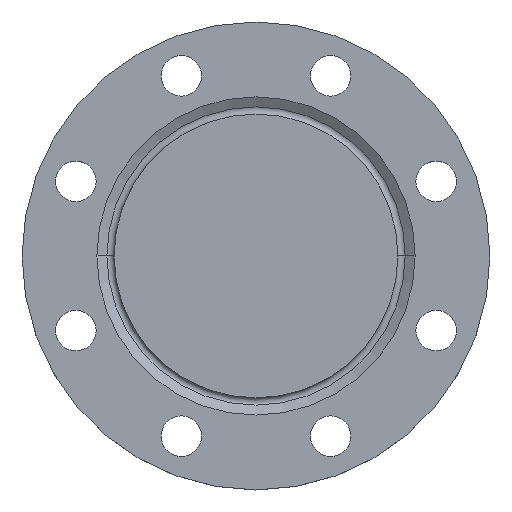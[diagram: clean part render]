
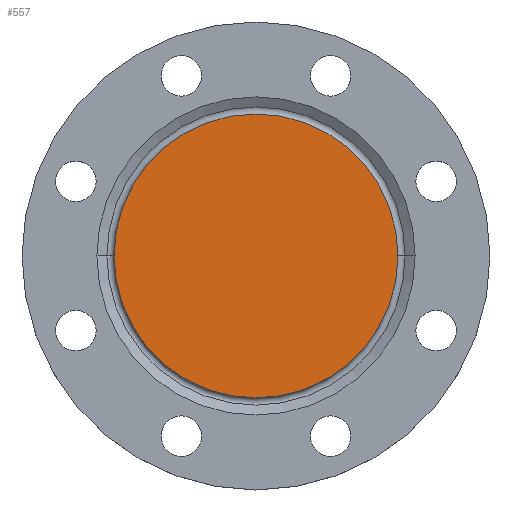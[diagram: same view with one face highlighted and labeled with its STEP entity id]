
A CAD part, top view. The second image highlights one B-rep face of the part: STEP entity #557.
In plain terms, the highlighted planar face has unit normal (0, 0, 1).
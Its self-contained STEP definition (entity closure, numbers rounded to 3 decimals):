
#76 = CARTESIAN_POINT ( 'NONE',  ( 91., 0., 0. ) ) ;
#137 = CARTESIAN_POINT ( 'NONE',  ( -91., 0., 0. ) ) ;
#384 = DIRECTION ( 'NONE',  ( -1., 0., 0. ) ) ;
#385 = DIRECTION ( 'NONE',  ( 0., 0., -1. ) ) ;
#386 = CARTESIAN_POINT ( 'NONE',  ( 0., 0., 0. ) ) ;
#397 = DIRECTION ( 'NONE',  ( 1., 0., 0. ) ) ;
#398 = DIRECTION ( 'NONE',  ( 0., 0., 1. ) ) ;
#399 = CARTESIAN_POINT ( 'NONE',  ( 0., 0., 0. ) ) ;
#402 = PLANE ( 'NONE',  #578 ) ;
#403 = FACE_OUTER_BOUND ( 'NONE', #597, .T. ) ;
#439 = DIRECTION ( 'NONE',  ( 0., 0., -1. ) ) ;
#459 = CARTESIAN_POINT ( 'NONE',  ( 0., 0., 0. ) ) ;
#461 = DIRECTION ( 'NONE',  ( -1., 0., 0. ) ) ;
#517 = CIRCLE ( 'NONE', #524, 91. ) ;
#524 = AXIS2_PLACEMENT_3D ( 'NONE', #459, #439, #461 ) ;
#532 = EDGE_CURVE ( 'NONE', #859, #980, #517, .T. ) ;
#557 = ADVANCED_FACE ( 'NONE', ( #403 ), #402, .T. ) ;
#562 = EDGE_CURVE ( 'NONE', #980, #859, #583, .T. ) ;
#578 = AXIS2_PLACEMENT_3D ( 'NONE', #399, #398, #397 ) ;
#583 = CIRCLE ( 'NONE', #592, 91. ) ;
#592 = AXIS2_PLACEMENT_3D ( 'NONE', #386, #385, #384 ) ;
#597 = EDGE_LOOP ( 'NONE', ( #895, #897 ) ) ;
#859 = VERTEX_POINT ( 'NONE', #137 ) ;
#895 = ORIENTED_EDGE ( 'NONE', *, *, #532, .F. ) ;
#897 = ORIENTED_EDGE ( 'NONE', *, *, #562, .F. ) ;
#980 = VERTEX_POINT ( 'NONE', #76 ) ;
